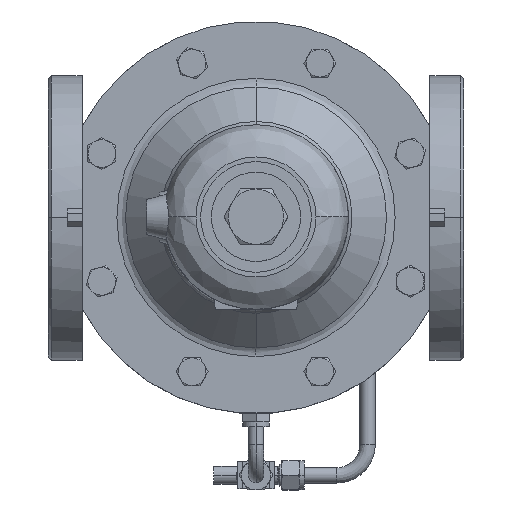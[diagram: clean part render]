
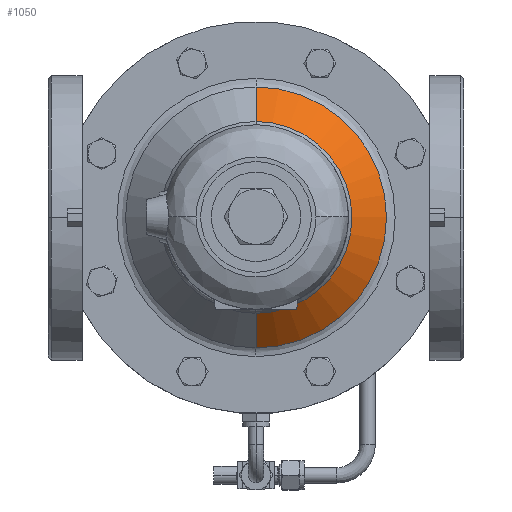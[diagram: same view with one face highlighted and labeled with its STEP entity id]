
A CAD part, top view. The second image highlights one B-rep face of the part: STEP entity #1050.
In plain terms, the highlighted free-form (B-spline) face has degree [2, 1] with [5, 2] control points.
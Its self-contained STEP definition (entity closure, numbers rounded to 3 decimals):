
#1050=ADVANCED_FACE('',(#4376),#4375,.T.);
#4375=( BOUNDED_SURFACE() B_SPLINE_SURFACE( 2,1,((#11215,#11216),(#11217,#11218),(#11219,#11220),(#11221,#11222),(#11223,#11224)), .UNSPECIFIED.,.F.,.F.,.F.) B_SPLINE_SURFACE_WITH_KNOTS((3,2,3),(2,2),(0.,0.5,1.),(0.,1.), .UNSPECIFIED. ) GEOMETRIC_REPRESENTATION_ITEM() RATIONAL_B_SPLINE_SURFACE(((1.,1.),(0.707,0.707),(1.,1.),(0.707,0.707),(1.,1.))) REPRESENTATION_ITEM('') SURFACE() );
#4376=FACE_OUTER_BOUND('',#11225,.T.);
#11215=CARTESIAN_POINT('',(62.343,0.,47.799));
#11216=CARTESIAN_POINT('',(84.799,0.,25.343));
#11217=CARTESIAN_POINT('',(62.343,-62.343,47.799));
#11218=CARTESIAN_POINT('',(84.799,-84.799,25.343));
#11219=CARTESIAN_POINT('',(0.,-62.343,47.799));
#11220=CARTESIAN_POINT('',(0.,-84.799,25.343));
#11221=CARTESIAN_POINT('',(-62.343,-62.343,47.799));
#11222=CARTESIAN_POINT('',(-84.799,-84.799,25.343));
#11223=CARTESIAN_POINT('',(-62.343,0.,47.799));
#11224=CARTESIAN_POINT('',(-84.799,0.,25.343));
#11225=EDGE_LOOP('',(#14754,#14755,#14756,#14757));
#14754=ORIENTED_EDGE('',*,*,#16795,.T.);
#14755=ORIENTED_EDGE('',*,*,#16799,.T.);
#14756=ORIENTED_EDGE('',*,*,#16801,.F.);
#14757=ORIENTED_EDGE('',*,*,#16800,.F.);
#16795=EDGE_CURVE('',#22686,#22685,#22733,.T.);
#16799=EDGE_CURVE('',#22685,#22751,#22759,.T.);
#16800=EDGE_CURVE('',#22686,#22752,#22765,.T.);
#16801=EDGE_CURVE('',#22752,#22751,#22771,.T.);
#22685=VERTEX_POINT('',#32055);
#22686=VERTEX_POINT('',#32056);
#22733=CIRCLE('',#32090,62.343);
#22751=VERTEX_POINT('',#32095);
#22752=VERTEX_POINT('',#32096);
#22759=(BOUNDED_CURVE() B_SPLINE_CURVE(1,(#32101,#32102),.UNSPECIFIED.,.F.,.F.) B_SPLINE_CURVE_WITH_KNOTS((2,2),(0.,1.),.UNSPECIFIED.) CURVE() GEOMETRIC_REPRESENTATION_ITEM() RATIONAL_B_SPLINE_CURVE((1.,1.)) REPRESENTATION_ITEM('') );
#22765=(BOUNDED_CURVE() B_SPLINE_CURVE(1,(#32103,#32104),.UNSPECIFIED.,.F.,.F.) B_SPLINE_CURVE_WITH_KNOTS((2,2),(0.,1.),.UNSPECIFIED.) CURVE() GEOMETRIC_REPRESENTATION_ITEM() RATIONAL_B_SPLINE_CURVE((0.75,0.75)) REPRESENTATION_ITEM('') );
#22771=CIRCLE('',#32108,84.799);
#32055=CARTESIAN_POINT('',(-62.343,0.,47.799));
#32056=CARTESIAN_POINT('',(62.343,0.,47.799));
#32087=CARTESIAN_POINT('',(0.,0.,47.799));
#32088=DIRECTION('',(0.,0.,-1.));
#32089=DIRECTION('',(-1.,0.,0.));
#32090=AXIS2_PLACEMENT_3D('',#32087,#32088,#32089);
#32095=CARTESIAN_POINT('',(-84.799,0.,25.343));
#32096=CARTESIAN_POINT('',(84.799,0.,25.343));
#32101=CARTESIAN_POINT('',(-62.343,0.,47.799));
#32102=CARTESIAN_POINT('',(-84.799,0.,25.343));
#32103=CARTESIAN_POINT('',(62.343,0.,47.799));
#32104=CARTESIAN_POINT('',(84.799,0.,25.343));
#32105=CARTESIAN_POINT('',(0.,0.,25.343));
#32106=DIRECTION('',(0.,0.,-1.));
#32107=DIRECTION('',(-1.,0.,0.));
#32108=AXIS2_PLACEMENT_3D('',#32105,#32106,#32107);
